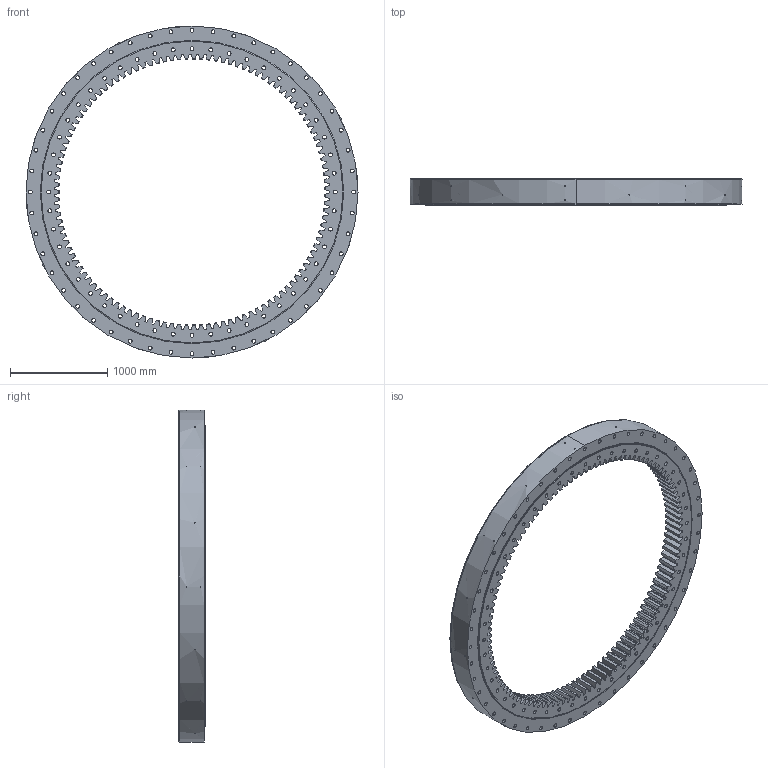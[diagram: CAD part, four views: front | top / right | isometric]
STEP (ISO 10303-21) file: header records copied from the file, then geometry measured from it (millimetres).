
FILE_DESCRIPTION (( 'STEP AP214' ), '1' );
FILE_NAME ('SM3350-1-3415AA.STEP', '2022-11-24T07:56:20', ( '' ), ( '' ), 'SwSTEP 2.0', 'SolidWorks 2020', '' );
FILE_SCHEMA (( 'AUTOMOTIVE_DESIGN' ));
Length unit declared in the file: millimetre
Products named in the file (1): SM3350-1-3415AA
Bounding box: 3415 x 268 x 3415 mm (x, y, z)
Volume: 693787024.9 mm3; surface area: 23087965.7 mm2
Topology: 5 solids, 5 shells, 1282 faces, 3623 edges, 2412 vertices
Faces by surface type: plane 531, cylinder 509, cone 242
Entity records: 48063 total; most frequent: CARTESIAN_POINT 15068, ORIENTED_EDGE 7246, DIRECTION 6294, EDGE_CURVE 3623, VERTEX_POINT 2412, AXIS2_PLACEMENT_3D 2369, EDGE_LOOP 1609, VECTOR 1556
